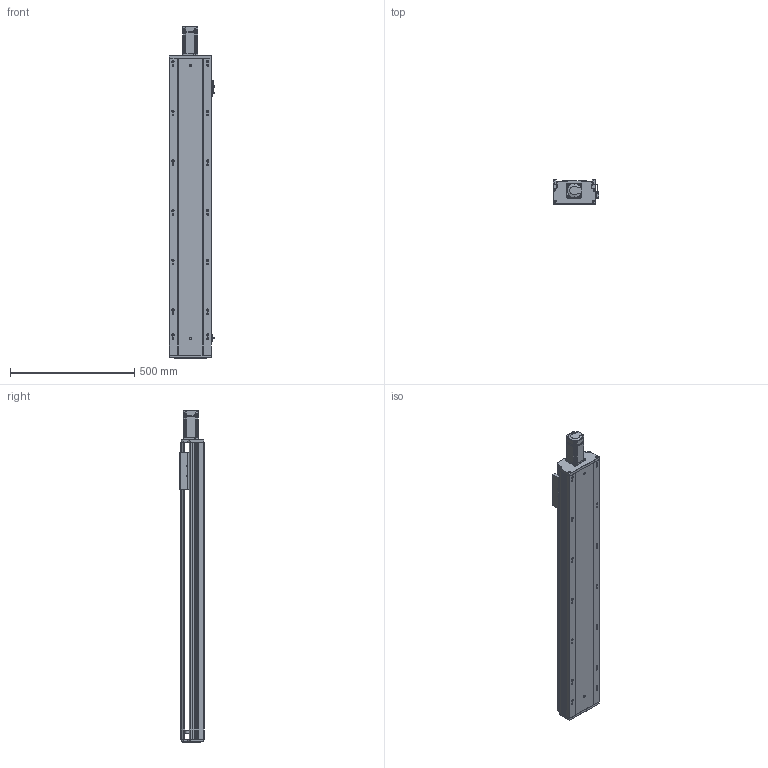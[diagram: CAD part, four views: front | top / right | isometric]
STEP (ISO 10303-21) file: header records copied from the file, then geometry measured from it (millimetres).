
FILE_DESCRIPTION (( 'STEP AP203' ), '1' );
FILE_NAME ('RY170Q-L2020-400-MK.SLDASM_0950.step', '2021-05-31T02:03:03', ( '盈信电脑' ), ( '东莞市道滘镇水果街19号' ), 'SwSTEP 2.0', 'SolidWorks 2016', '' );
FILE_SCHEMA (( 'CONFIG_CONTROL_DESIGN' ));
Length unit declared in the file: millimetre
Products named in the file (12): 侂狟400W侜督萇儂; RY170Q-400倰第菁釱-MK_0950; 滅袉蝶18-10; RY170外置感应片(200共用）; RY170Q-400倰第裔啣-MK_0950; RY170Q臏賑輸20佪裝蹟譫(FK15); 滅袉蝶18-15; RY170綴裔啣; 覜茼ん672; 15; RY170ヶ醱裔啣; RY170Q-L2020-400-MK.SLDASM_0950
Assembly tree (14 placements, depth 3):
  RY170Q-L2020-400-MK.SLDASM_0950
    RY170Q-400倰第菁釱-MK_0950
    RY170Q-400倰第裔啣-MK_0950
    RY170Q臏賑輸20佪裝蹟譫(FK15)
    侂狟400W侜督萇儂
      15
    RY170綴裔啣
    覜茼ん672  x3
    RY170外置感应片(200共用）
    RY170ヶ醱裔啣
    滅袉蝶18-15  x2
    滅袉蝶18-10
Bounding box: 183.7 x 97 x 1336.5 mm (x, y, z)
Volume: 6001535.3 mm3; surface area: 1970194.2 mm2
Topology: 13 solids, 13 shells, 2214 faces, 6323 edges, 4073 vertices
Faces by surface type: plane 1185, cylinder 811, cone 189, bspline 29
Entity records: 69786 total; most frequent: CARTESIAN_POINT 15411, ORIENTED_EDGE 11370, DIRECTION 10780, EDGE_CURVE 5685, VERTEX_POINT 3741, VECTOR 3652, LINE 3652, AXIS2_PLACEMENT_3D 3564
